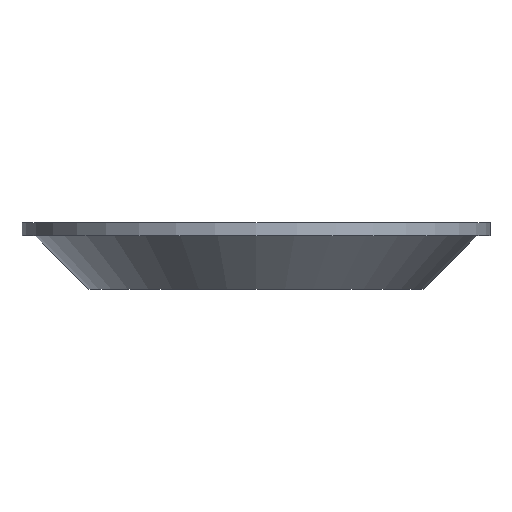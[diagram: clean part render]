
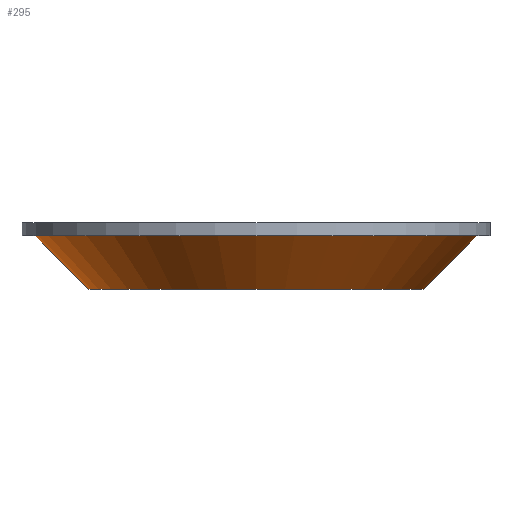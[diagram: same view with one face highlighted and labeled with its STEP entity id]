
A CAD part, left-side view. The second image highlights one B-rep face of the part: STEP entity #295.
In plain terms, the highlighted conical face has half-angle 45 degrees and reference radius 29 mm.
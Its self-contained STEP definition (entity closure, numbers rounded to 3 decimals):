
#41=FACE_OUTER_BOUND('',#61,.T.);
#61=EDGE_LOOP('',(#249,#250,#251,#252));
#78=CIRCLE('',#336,33.);
#79=CIRCLE('',#338,25.);
#101=LINE('',#501,#129);
#102=LINE('',#504,#130);
#129=VECTOR('',#411,10.);
#130=VECTOR('',#414,10.);
#156=VERTEX_POINT('',#494);
#157=VERTEX_POINT('',#496);
#158=VERTEX_POINT('',#500);
#159=VERTEX_POINT('',#502);
#189=EDGE_CURVE('',#156,#157,#78,.T.);
#191=EDGE_CURVE('',#156,#158,#101,.T.);
#192=EDGE_CURVE('',#159,#158,#79,.T.);
#193=EDGE_CURVE('',#159,#157,#102,.T.);
#249=ORIENTED_EDGE('',*,*,#191,.T.);
#250=ORIENTED_EDGE('',*,*,#192,.F.);
#251=ORIENTED_EDGE('',*,*,#193,.T.);
#252=ORIENTED_EDGE('',*,*,#189,.F.);
#283=CONICAL_SURFACE('',#337,29.,0.785);
#295=ADVANCED_FACE('',(#41),#283,.T.);
#336=AXIS2_PLACEMENT_3D('',#497,#406,#407);
#337=AXIS2_PLACEMENT_3D('',#499,#409,#410);
#338=AXIS2_PLACEMENT_3D('',#503,#412,#413);
#406=DIRECTION('center_axis',(0.,0.,1.));
#407=DIRECTION('ref_axis',(-1.,0.,0.));
#409=DIRECTION('center_axis',(0.,0.,1.));
#410=DIRECTION('ref_axis',(-1.,0.,0.));
#411=DIRECTION('',(0.,-0.707,-0.707));
#412=DIRECTION('center_axis',(0.,0.,-1.));
#413=DIRECTION('ref_axis',(-1.,0.,0.));
#414=DIRECTION('',(0.,-0.707,0.707));
#494=CARTESIAN_POINT('',(-133.306,109.845,0.));
#496=CARTESIAN_POINT('',(-133.306,43.845,0.));
#497=CARTESIAN_POINT('Origin',(-133.306,76.845,0.));
#499=CARTESIAN_POINT('Origin',(-133.306,76.845,-4.));
#500=CARTESIAN_POINT('',(-133.306,101.845,-8.));
#501=CARTESIAN_POINT('',(-133.306,109.845,0.));
#502=CARTESIAN_POINT('',(-133.306,51.845,-8.));
#503=CARTESIAN_POINT('Origin',(-133.306,76.845,-8.));
#504=CARTESIAN_POINT('',(-133.306,51.845,-8.));
